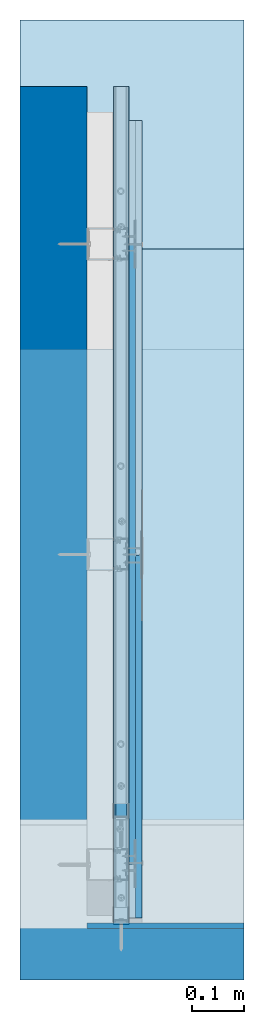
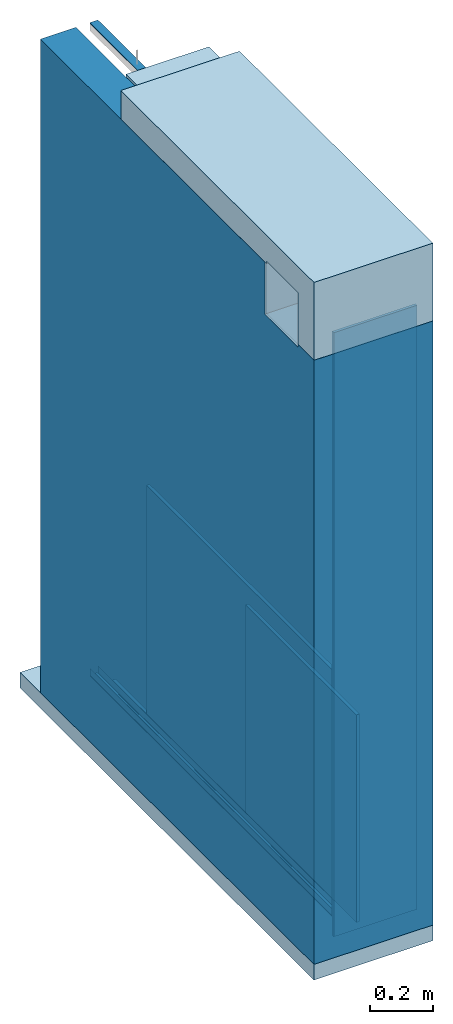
# One storey, part 1 of 62: 8 walls, 3 slabs.
"""IFC2X3 building model written with IfcOpenShell, lengths in millimetres."""

from ifc_helpers import new_model, si_unit, frame, origin_with_axes, place, context, subcontext, project, spatial, faceted_brep, material, type_object, element, save


model = new_model("IFC2X3")

# Units and contexts
model_context = context("Model", 3, world=origin_with_axes())
body_context = subcontext(model_context, "Body", "Model", "MODEL_VIEW")
ifc_project = project(units=[si_unit("LENGTHUNIT", "METRE", prefix="MILLI"), si_unit("AREAUNIT", "SQUARE_METRE"), si_unit("VOLUMEUNIT", "CUBIC_METRE")], contexts=[model_context])

# Site, building, storey
site_placement = place(None, frame((2152.14102611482, -2015.0250894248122, 57.61556563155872), z_axis=(0.0, 0.0, 1.0), x_axis=(-1.1102230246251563e-16, 1.0, 0.0)))
site = spatial("IfcSite", under=ifc_project, at=site_placement, Name="Default Site", CompositionType="ELEMENT")
building_placement = place(site_placement, origin_with_axes())
building = spatial("IfcBuilding", under=site, at=building_placement, Name="Default Building", CompositionType="ELEMENT")
storey_placement = place(building_placement, origin_with_axes())
storey = spatial("IfcBuildingStorey", under=building, at=storey_placement, Name="Default Building Storey", CompositionType="ELEMENT", Elevation=57.61556563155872)

# Slabs
ifc_material_1 = material(Name="Concrete_02_1K")
slab_type_1 = type_object("IfcSlabType", Name="Beton", PredefinedType="FLOOR")
slab_1_placement = place(storey_placement, frame((3761.1571697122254, 2049.141026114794, -50.615566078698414), z_axis=(0.0, 0.0, 1.0), x_axis=(1.0, 0.0, 0.0)))
element("IfcSlab", 1, at=slab_1_placement, inside=storey, type_object=slab_type_1, material=ifc_material_1, Name="Beton", context=body_context, shape_type="Brep", body=[
    faceted_brep([(110.0000167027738, 103.00000000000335, -6.999999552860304), (110.0000167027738, 103.00000000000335, 52.99959201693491), (110.0000167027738, -330.0000000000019, 52.99959201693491), (110.0000167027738, -330.0000000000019, -6.999999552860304), (-1746.1320802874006, 103.00000000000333, 52.99959201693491), (-1746.1320802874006, 103.00000000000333, -6.999999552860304), (-1746.1320802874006, -330.00000000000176, -6.999999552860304), (-1746.1320802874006, -330.00000000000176, 52.99959201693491)], [[[0, 1, 2, 3]], [[4, 5, 6, 7]], [[1, 0, 5, 4]], [[2, 1, 4, 7]], [[3, 2, 7, 6]], [[0, 3, 6, 5]]]),
])
ifc_material_2 = material(Name="M04_Stone_Frost")
slab_type_2 = type_object("IfcSlabType", Name="Strop#1", PredefinedType="FLOOR")
slab_2_placement = place(storey_placement, frame((3683.040564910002, 2049.141026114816, 2517.3944339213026), z_axis=(0.0, 0.0, 1.0), x_axis=(1.0, 0.0, 0.0)))
element("IfcSlab", 2, at=slab_2_placement, inside=storey, type_object=slab_type_2, material=ifc_material_2, Name="Strop", context=body_context, shape_type="Brep", body=[
    faceted_brep([(-254.99998329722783, -27.000143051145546, 3.0000004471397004), (-254.99998329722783, -27.000143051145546, 12.99999999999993), (-254.99998329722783, -330.0000000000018, 12.99999999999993), (-254.99998329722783, -330.0000000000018, 3.0000004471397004), (-1367.9999832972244, -27.000143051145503, 12.99999999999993), (-1367.9999832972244, -27.000143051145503, 3.0000004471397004), (-1367.9999832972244, -330.00000000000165, 3.0000004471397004), (-1367.9999832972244, -330.00000000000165, 12.99999999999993)], [[[0, 1, 2, 3]], [[4, 5, 6, 7]], [[1, 0, 5, 4]], [[2, 1, 4, 7]], [[3, 2, 7, 6]], [[0, 3, 6, 5]]]),
])
slab_type_3 = type_object("IfcSlabType", Name="Strop", PredefinedType="FLOOR")
slab_3_placement = place(storey_placement, frame((3683.040564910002, 2049.1410261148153, 2527.3944334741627), z_axis=(0.0, 0.0, 1.0), x_axis=(1.0, 0.0, 0.0)))
element("IfcSlab", 3, at=slab_3_placement, inside=storey, type_object=slab_type_3, material=ifc_material_1, Name="Strop", context=body_context, shape_type="Brep", body=[
    faceted_brep([(-447.9999832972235, 103.00000000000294, -6.99999910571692), (-447.9999832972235, 103.00000000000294, 103.00000000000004), (-447.9999832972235, -330.0000000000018, 103.00000000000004), (-447.9999832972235, -330.0000000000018, 3.0000004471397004), (-447.9999832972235, -27.000143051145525, 3.0000004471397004), (-447.9999832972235, -27.000143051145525, -6.99999910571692), (-1367.9999832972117, 103.00000000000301, -6.99999910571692), (-1367.9999832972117, 103.00000000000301, 3.0000004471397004), (-1568.0154759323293, 103.0000000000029, 3.0000004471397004), (-1568.0154759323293, 103.0000000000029, -196.99999910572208), (-1668.0154754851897, 103.00000000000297, -196.99999910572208), (-1668.0154754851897, 103.00000000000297, 103.00000000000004), (-1668.0154754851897, -330.0000000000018, 103.00000000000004), (-1668.0154754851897, -330.0000000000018, -196.99999910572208), (-1568.0154759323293, -330.0000000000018, -196.99999910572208), (-1568.0154759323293, -330.0000000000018, 3.0000004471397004), (-1367.9999832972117, -27.000143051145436, 3.0000004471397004), (-1367.9999832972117, -27.000143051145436, -6.99999910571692)], [[[0, 1, 2, 3, 4, 5]], [[1, 0, 6, 7, 8, 9, 10, 11]], [[1, 11, 12, 2]], [[2, 12, 13, 14, 15, 3]], [[11, 10, 13, 12]], [[9, 14, 13, 10]], [[8, 15, 14, 9]], [[8, 7, 16, 4, 3, 15]], [[0, 5, 17, 6]], [[4, 16, 17, 5]], [[16, 7, 6, 17]]]),
])

# Walls
ifc_material_3 = material(Name="Undefined7")
wall_type_1 = type_object("IfcWallType", Name="Płyta gipsowo-kartonowa RIGIPS PRO (4PRO™)#4", PredefinedType="NOTDEFINED")
wall_1_placement = place(storey_placement, frame((2835.5063704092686, 1928.6800775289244, 1062.3900398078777), z_axis=(0.0, 0.0, 1.0), x_axis=(-1.0, 6.389333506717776e-13, 0.0)))
element("IfcWall", 4, at=wall_1_placement, inside=storey, type_object=wall_type_1, material=ifc_material_3, Name="Płyta gipsowo-kartonowa RIGIPS PRO (4PRO™)", context=body_context, shape_type="Brep", body=[
    faceted_brep([(700.4768892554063, 12.500000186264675, -250.0), (700.4768892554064, -3.9046383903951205e-10, -250.0), (700.4768892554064, -3.872152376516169e-10, -1050.001621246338), (700.4768892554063, 12.500000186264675, -1050.001621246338), (45.00000178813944, 12.500000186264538, -250.0), (41.000001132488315, 11.500000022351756, -250.0), (1.0000000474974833, 11.500000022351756, -250.0), (0.7411809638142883, 11.465925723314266, -250.0), (0.5000000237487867, 11.366025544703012, -250.0), (0.2928932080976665, 11.20710652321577, -250.0), (0.13397459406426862, 10.999999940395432, -250.0), (0.03407417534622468, 10.758819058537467, -250.0), (-2.887645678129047e-12, 10.499999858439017, -250.0), (0.0, 0.0, -250.0), (45.00000178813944, 12.500000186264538, -1050.001621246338), (41.000001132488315, 11.500000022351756, -1050.001621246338), (1.0000000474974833, 11.500000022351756, -1050.001621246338), (0.7411809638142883, 11.465925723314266, -1050.001621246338), (0.5000000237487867, 11.366025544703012, -1050.001621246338), (0.2928932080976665, 11.20710652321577, -1050.001621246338), (0.13397459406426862, 10.999999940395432, -1050.001621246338), (0.03407417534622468, 10.758819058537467, -1050.001621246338), (-2.887645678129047e-12, 10.499999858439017, -1050.001621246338), (0.0, 0.0, -1050.001621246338)], [[[0, 1, 2, 3]], [[0, 4, 5, 6, 7, 8, 9, 10, 11, 12, 13, 1]], [[3, 14, 4, 0]], [[5, 4, 14, 15]], [[6, 5, 15, 16]], [[7, 6, 16, 17]], [[8, 7, 17, 18]], [[9, 8, 18, 19]], [[10, 9, 19, 20]], [[11, 10, 20, 21]], [[12, 11, 21, 22]], [[13, 12, 22, 23]], [[2, 1, 13, 23]], [[14, 3, 2, 23, 22, 21, 20, 19, 18, 17, 16, 15]]]),
])
ifc_material_4 = material(Name="Undefined9")
wall_type_2 = type_object("IfcWallType", Name="Profil RIGIPS UD 30 GypSerra®/Ultrastil®", PredefinedType="NOTDEFINED")
wall_2_placement = place(storey_placement, frame((5048.786508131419, 3440.7922799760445, -108.59097421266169), z_axis=(-6.092619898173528e-14, -6.85815824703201e-13, 1.0), x_axis=(-1.0, -2.013442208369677e-15, -6.092619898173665e-14)))
element("IfcWall", 5, at=wall_2_placement, inside=storey, type_object=wall_type_2, material=ifc_material_4, Name="Profil RIGIPS UD 30 GypSerra®/Ultrastil®", context=body_context, shape_type="Brep", body=[
    faceted_brep([(2893.189556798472, 1469.9159860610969, 140.97499847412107), (2893.189556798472, 1469.366073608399, 140.97499847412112), (2893.18955679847, 1469.3660736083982, 114.77500200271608), (2893.1895567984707, 1469.3758487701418, 114.6498546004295), (2893.1895567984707, 1469.405174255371, 114.52778428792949), (2893.1895567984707, 1469.4532155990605, 114.4118085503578), (2893.1895567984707, 1469.518780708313, 114.30477350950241), (2893.1895567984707, 1469.6003198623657, 114.20931667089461), (2893.1895567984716, 1469.6958065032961, 114.1277849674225), (2893.1895567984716, 1469.8028564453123, 114.06219750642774), (2893.1895567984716, 1469.9188470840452, 114.01415616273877), (2893.1895567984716, 1470.0409173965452, 113.9848530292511), (2893.1895567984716, 1470.1660871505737, 113.97500336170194), (2893.1895567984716, 1472.0159769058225, 113.97500336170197), (2893.1895567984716, 1472.1635580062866, 113.98871988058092), (2893.1895567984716, 1472.3060131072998, 114.02940750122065), (2893.1895567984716, 1472.4385738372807, 114.09565806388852), (2893.1895567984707, 1472.5565910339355, 114.18521404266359), (2893.1895567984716, 1472.656011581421, 114.29499834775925), (2893.1895567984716, 1473.6760854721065, 115.65499752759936), (2893.1895567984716, 1473.7755060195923, 115.76478183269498), (2893.1895567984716, 1473.8935232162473, 115.85433781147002), (2893.189556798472, 1474.0260839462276, 115.92059582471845), (2893.189556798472, 1474.1685390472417, 115.96128344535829), (2893.189556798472, 1474.316000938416, 115.97499996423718), (2893.189556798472, 1493.6159849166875, 115.97499996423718), (2893.189556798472, 1493.7635660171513, 115.96128344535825), (2893.189556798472, 1493.9060211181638, 115.92059582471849), (2893.189556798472, 1494.0385818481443, 115.85433781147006), (2893.189556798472, 1494.1565990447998, 115.76478183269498), (2893.189556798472, 1494.2560195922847, 115.65499752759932), (2893.1895567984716, 1495.2759742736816, 114.29499834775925), (2893.1895567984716, 1495.3755140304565, 114.18521404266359), (2893.1895567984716, 1495.4935312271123, 114.09565806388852), (2893.1895567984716, 1495.6260919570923, 114.02940750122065), (2893.1895567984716, 1495.7685470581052, 113.98871988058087), (2893.1895567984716, 1495.9160089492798, 113.97500336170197), (2893.1895567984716, 1497.7660179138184, 113.97500336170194), (2893.1895567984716, 1497.8911876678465, 113.98485302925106), (2893.1895567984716, 1498.0132579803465, 114.01415616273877), (2893.1895567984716, 1498.1292486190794, 114.06219750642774), (2893.1895567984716, 1498.2362985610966, 114.12778496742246), (2893.1895567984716, 1498.3316659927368, 114.2093166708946), (2893.1895567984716, 1498.4132051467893, 114.30477350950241), (2893.1895567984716, 1498.4788894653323, 114.4118085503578), (2893.1895567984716, 1498.5269308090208, 114.5277842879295), (2893.1895567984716, 1498.5561370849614, 114.6498546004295), (2893.189556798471, 1498.5660314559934, 114.77500200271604), (2893.189556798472, 1498.5660314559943, 140.97499847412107), (2893.189556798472, 1498.0159997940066, 140.97499847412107), (2893.189556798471, 1498.0159997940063, 114.77500200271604), (2893.1895567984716, 1498.012900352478, 114.73589390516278), (2893.1895567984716, 1498.0038404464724, 114.69774693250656), (2893.1895567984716, 1497.9888200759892, 114.66149985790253), (2893.1895567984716, 1497.9683160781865, 114.62805420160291), (2893.1895567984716, 1497.942805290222, 114.59822207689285), (2893.1895567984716, 1497.9130029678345, 114.57274854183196), (2893.1895567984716, 1497.8795051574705, 114.55225199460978), (2893.1895567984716, 1497.843265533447, 114.53723907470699), (2893.1895567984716, 1497.8051185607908, 114.5280748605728), (2893.1895567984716, 1497.7660179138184, 114.52499777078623), (2893.1895567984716, 1495.9160089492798, 114.52499777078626), (2893.1895567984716, 1495.8698749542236, 114.52928930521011), (2893.1895567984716, 1495.825409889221, 114.54199999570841), (2893.1895567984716, 1495.784044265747, 114.56270515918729), (2893.1895567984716, 1495.747089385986, 114.59068953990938), (2893.1895567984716, 1495.715975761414, 114.6249994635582), (2893.189556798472, 1494.6960210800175, 115.98499864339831), (2893.189556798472, 1494.5281744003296, 116.17025732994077), (2893.1895567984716, 1494.3289756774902, 116.32138490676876), (2893.1895567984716, 1494.1053390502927, 116.43319576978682), (2893.1895567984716, 1493.8650131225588, 116.50185286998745), (2893.1895567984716, 1493.6159849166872, 116.52500182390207), (2893.189556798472, 1474.3160009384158, 116.52500182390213), (2893.189556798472, 1474.067091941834, 116.50185286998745), (2893.189556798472, 1473.8266468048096, 116.43319576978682), (2893.189556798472, 1473.6031293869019, 116.32138490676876), (2893.189556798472, 1473.4039306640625, 116.17025732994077), (2893.189556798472, 1473.2360839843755, 115.98499864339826), (2893.1895567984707, 1472.2160100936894, 114.6249994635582), (2893.1895567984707, 1472.1848964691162, 114.59068953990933), (2893.1895567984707, 1472.148060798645, 114.56270515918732), (2893.1895567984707, 1472.1066951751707, 114.54199999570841), (2893.1895567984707, 1472.0621109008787, 114.52928930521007), (2893.1895567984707, 1472.0159769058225, 114.52499777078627), (2893.1895567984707, 1470.1660871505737, 114.52499777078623), (2893.1895567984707, 1470.1268672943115, 114.5280748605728), (2893.1895567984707, 1470.088720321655, 114.53723907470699), (2893.1895567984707, 1470.0524806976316, 114.55225199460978), (2893.1895567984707, 1470.0191020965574, 114.57274854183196), (2893.1895567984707, 1469.9892997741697, 114.59822207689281), (2893.1895567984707, 1469.9637889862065, 114.6280542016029), (2893.1895567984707, 1469.943284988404, 114.66149985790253), (2893.1895567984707, 1469.9282646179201, 114.69774693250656), (2893.1895567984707, 1469.9190855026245, 114.73589390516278), (2893.18955679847, 1469.915986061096, 114.77500200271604), (1306.0656785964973, 1469.3660736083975, 114.77500200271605), (1306.0656785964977, 1469.3660736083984, 140.9749984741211), (1306.0656785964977, 1469.9159860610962, 140.97499847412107), (1306.0656785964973, 1469.9159860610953, 114.77500200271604), (1306.0656785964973, 1469.9190855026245, 114.73589390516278), (1306.0656785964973, 1469.9282646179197, 114.69774693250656), (1306.0656785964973, 1469.9432849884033, 114.66149985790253), (1306.0656785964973, 1469.963788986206, 114.62805420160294), (1306.0656785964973, 1469.989299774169, 114.59822207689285), (1306.0656785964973, 1470.0191020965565, 114.57274854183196), (1306.0656785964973, 1470.0524806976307, 114.55225199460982), (1306.0656785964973, 1470.0887203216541, 114.53723907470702), (1306.0656785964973, 1470.1268672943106, 114.52807486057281), (1306.0656785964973, 1470.1660871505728, 114.5249977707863), (1306.0656785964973, 1472.0159769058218, 114.52499777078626), (1306.0656785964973, 1472.062110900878, 114.52928930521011), (1306.0656785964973, 1472.10669517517, 114.54199999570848), (1306.0656785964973, 1472.148060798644, 114.56270515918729), (1306.0656785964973, 1472.1848964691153, 114.59068953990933), (1306.0656785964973, 1472.216010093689, 114.6249994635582), (1306.0656785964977, 1473.236083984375, 115.98499864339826), (1306.0656785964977, 1473.4039306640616, 116.17025732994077), (1306.0656785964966, 1473.6031293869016, 116.3213849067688), (1306.0656785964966, 1473.8266468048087, 116.43319576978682), (1306.0656785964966, 1474.0670919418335, 116.50185286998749), (1306.0656785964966, 1474.3160009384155, 116.52500182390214), (1306.0656785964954, 1493.615984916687, 116.52500182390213), (1306.0656785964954, 1493.8650131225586, 116.50185286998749), (1306.0656785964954, 1494.105339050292, 116.43319576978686), (1306.0656785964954, 1494.32897567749, 116.3213849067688), (1306.0656785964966, 1494.5281744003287, 116.17025732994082), (1306.0656785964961, 1494.696021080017, 115.98499864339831), (1306.0656785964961, 1495.7159757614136, 114.62499946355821), (1306.0656785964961, 1495.7470893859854, 114.59068953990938), (1306.0656785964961, 1495.7840442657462, 114.56270515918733), (1306.0656785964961, 1495.8254098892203, 114.54199999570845), (1306.0656785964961, 1495.8698749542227, 114.52928930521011), (1306.0656785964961, 1495.9160089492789, 114.5249977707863), (1306.0656785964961, 1497.7660179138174, 114.52499777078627), (1306.0656785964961, 1497.80511856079, 114.5280748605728), (1306.0656785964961, 1497.8432655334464, 114.53723907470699), (1306.0656785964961, 1497.8795051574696, 114.55225199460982), (1306.0656785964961, 1497.9130029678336, 114.57274854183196), (1306.0656785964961, 1497.9428052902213, 114.59822207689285), (1306.0656785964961, 1497.968316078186, 114.62805420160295), (1306.0656785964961, 1497.9888200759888, 114.66149985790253), (1306.0656785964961, 1498.0038404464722, 114.69774693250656), (1306.0656785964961, 1498.0129003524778, 114.73589390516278), (1306.0656785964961, 1498.0159997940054, 114.77500200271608), (1306.0656785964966, 1498.0159997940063, 140.97499847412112), (1306.0656785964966, 1498.5660314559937, 140.97499847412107), (1306.0656785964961, 1498.5660314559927, 114.77500200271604), (1306.0656785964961, 1498.556137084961, 114.64985460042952), (1306.0656785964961, 1498.5269308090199, 114.52778428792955), (1306.0656785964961, 1498.478889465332, 114.41180855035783), (1306.0656785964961, 1498.4132051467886, 114.30477350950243), (1306.0656785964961, 1498.3316659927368, 114.20931667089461), (1306.0656785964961, 1498.236298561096, 114.12778496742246), (1306.0656785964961, 1498.1292486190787, 114.06219750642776), (1306.0656785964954, 1498.0132579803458, 114.01415616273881), (1306.0656785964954, 1497.8911876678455, 113.9848530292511), (1306.0656785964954, 1497.7660179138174, 113.97500336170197), (1306.0656785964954, 1495.9160089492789, 113.97500336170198), (1306.0656785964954, 1495.7685470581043, 113.98871988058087), (1306.0656785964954, 1495.6260919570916, 114.02940750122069), (1306.0656785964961, 1495.4935312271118, 114.09565806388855), (1306.0656785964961, 1495.3755140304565, 114.18521404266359), (1306.0656785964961, 1495.275974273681, 114.29499834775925), (1306.0656785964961, 1494.2560195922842, 115.65499752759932), (1306.0656785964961, 1494.1565990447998, 115.76478183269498), (1306.0656785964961, 1494.0385818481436, 115.85433781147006), (1306.0656785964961, 1493.9060211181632, 115.92059582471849), (1306.0656785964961, 1493.7635660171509, 115.96128344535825), (1306.0656785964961, 1493.615984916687, 115.9749999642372), (1306.0656785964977, 1474.3160009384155, 115.9749999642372), (1306.0656785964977, 1474.1685390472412, 115.96128344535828), (1306.0656785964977, 1474.0260839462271, 115.92059582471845), (1306.0656785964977, 1473.8935232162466, 115.85433781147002), (1306.0656785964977, 1473.7755060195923, 115.764781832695), (1306.0656785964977, 1473.676085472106, 115.65499752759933), (1306.0656785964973, 1472.65601158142, 114.29499834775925), (1306.0656785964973, 1472.5565910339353, 114.18521404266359), (1306.0656785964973, 1472.43857383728, 114.09565806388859), (1306.0656785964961, 1472.306013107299, 114.02940750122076), (1306.0656785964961, 1472.1635580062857, 113.98871988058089), (1306.0656785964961, 1472.0159769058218, 113.97500336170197), (1306.0656785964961, 1470.1660871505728, 113.97500336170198), (1306.0656785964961, 1470.0409173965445, 113.98485302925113), (1306.0656785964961, 1469.9188470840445, 114.01415616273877), (1306.0656785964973, 1469.8028564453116, 114.06219750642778), (1306.0656785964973, 1469.695806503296, 114.12778496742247), (1306.0656785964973, 1469.6003198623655, 114.20931667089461), (1306.0656785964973, 1469.5187807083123, 114.30477350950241), (1306.0656785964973, 1469.45321559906, 114.4118085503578), (1306.0656785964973, 1469.4051742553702, 114.52778428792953), (1306.0656785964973, 1469.3758487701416, 114.64985460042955)], [[[0, 1, 2, 3, 4, 5, 6, 7, 8, 9, 10, 11, 12, 13, 14, 15, 16, 17, 18, 19, 20, 21, 22, 23, 24, 25, 26, 27, 28, 29, 30, 31, 32, 33, 34, 35, 36, 37, 38, 39, 40, 41, 42, 43, 44, 45, 46, 47, 48, 49, 50, 51, 52, 53, 54, 55, 56, 57, 58, 59, 60, 61, 62, 63, 64, 65, 66, 67, 68, 69, 70, 71, 72, 73, 74, 75, 76, 77, 78, 79, 80, 81, 82, 83, 84, 85, 86, 87, 88, 89, 90, 91, 92, 93, 94, 95]], [[96, 97, 98, 99, 100, 101, 102, 103, 104, 105, 106, 107, 108, 109, 110, 111, 112, 113, 114, 115, 116, 117, 118, 119, 120, 121, 122, 123, 124, 125, 126, 127, 128, 129, 130, 131, 132, 133, 134, 135, 136, 137, 138, 139, 140, 141, 142, 143, 144, 145, 146, 147, 148, 149, 150, 151, 152, 153, 154, 155, 156, 157, 158, 159, 160, 161, 162, 163, 164, 165, 166, 167, 168, 169, 170, 171, 172, 173, 174, 175, 176, 177, 178, 179, 180, 181, 182, 183, 184, 185, 186, 187, 188, 189, 190, 191]], [[23, 171, 170, 24]], [[22, 172, 171, 23]], [[175, 174, 20, 19]], [[172, 22, 21, 173]], [[20, 174, 173, 21]], [[24, 170, 169, 25]], [[29, 165, 164, 30]], [[165, 29, 28, 166]], [[27, 167, 166, 28]], [[169, 168, 26, 25]], [[26, 168, 167, 27]], [[30, 164, 163, 31]], [[35, 159, 158, 36]], [[34, 160, 159, 35]], [[33, 32, 162, 161]], [[161, 160, 34, 33]], [[163, 162, 32, 31]], [[36, 158, 157, 37]], [[46, 45, 149, 148]], [[148, 147, 47, 46]], [[44, 150, 149, 45]], [[43, 42, 152, 151]], [[151, 150, 44, 43]], [[41, 40, 154, 153]], [[153, 152, 42, 41]], [[39, 155, 154, 40]], [[38, 37, 157, 156]], [[156, 155, 39, 38]], [[47, 147, 146, 48]], [[48, 146, 145, 49]], [[49, 145, 144, 50]], [[134, 60, 59, 135]], [[58, 136, 135, 59]], [[57, 137, 136, 58]], [[137, 57, 56, 138]], [[55, 139, 138, 56]], [[139, 55, 54, 140]], [[53, 141, 140, 54]], [[52, 142, 141, 53]], [[142, 52, 51, 143]], [[50, 144, 143, 51]], [[60, 134, 133, 61]], [[65, 129, 128, 66]], [[129, 65, 64, 130]], [[63, 131, 130, 64]], [[133, 132, 62, 61]], [[62, 132, 131, 63]], [[66, 128, 127, 67]], [[71, 123, 122, 72]], [[70, 69, 125, 124]], [[124, 123, 71, 70]], [[68, 126, 125, 69]], [[127, 126, 68, 67]], [[72, 122, 121, 73]], [[77, 117, 116, 78]], [[76, 118, 117, 77]], [[75, 74, 120, 119]], [[119, 118, 76, 75]], [[121, 120, 74, 73]], [[78, 116, 115, 79]], [[83, 111, 110, 84]], [[82, 112, 111, 83]], [[115, 114, 80, 79]], [[112, 82, 81, 113]], [[80, 114, 113, 81]], [[84, 110, 109, 85]], [[99, 95, 94, 100]], [[93, 101, 100, 94]], [[92, 102, 101, 93]], [[102, 92, 91, 103]], [[90, 104, 103, 91]], [[104, 90, 89, 105]], [[88, 106, 105, 89]], [[87, 107, 106, 88]], [[107, 87, 86, 108]], [[85, 109, 108, 86]], [[95, 99, 98, 0]], [[0, 98, 97, 1]], [[1, 97, 96, 2]], [[11, 10, 184, 183]], [[183, 182, 12, 11]], [[9, 185, 184, 10]], [[6, 5, 189, 188]], [[7, 6, 188, 187]], [[8, 7, 187, 186]], [[186, 185, 9, 8]], [[4, 190, 189, 5]], [[3, 2, 96, 191]], [[191, 190, 4, 3]], [[12, 182, 181, 13]], [[17, 177, 176, 18]], [[16, 15, 179, 178]], [[178, 177, 17, 16]], [[14, 180, 179, 15]], [[181, 180, 14, 13]], [[18, 176, 175, 19]]]),
])
ifc_material_5 = material(Name="Undefined13")
wall_type_3 = type_object("IfcWallType", Name="Taśma uszczelniająca piankowa RIGIPS#3", PredefinedType="NOTDEFINED")
for number, where, z_axis, x_axis, name in (
    (6, (5610.1650774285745, 3440.792279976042, -108.59097421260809), (-6.09261989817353e-14, -6.85815824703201e-13, 1.0), (-1.0, -2.0134422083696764e-15, -6.092619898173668e-14), "Taśma uszczelniająca piankowa RIGIPS"),
    (7, (5610.165077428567, 472.860294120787, 2631.3590203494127), (6.092619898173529e-14, 6.866451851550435e-13, -1.0), (-1.0, -2.0134422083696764e-15, -6.092619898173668e-14), "Taśma uszczelniająca piankowa RIGIPS"),
):
    element("IfcWall", number, at=place(storey_placement, frame(where, z_axis=z_axis, x_axis=x_axis)), inside=storey, type_object=wall_type_3, material=ifc_material_5, Name=name, context=body_context, shape_type="Brep", body=[
        faceted_brep([(1867.1244382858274, 1498.965978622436, 113.97500336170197), (1867.1244382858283, 1498.9659786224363, 110.9749972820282), (1867.1244382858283, 1468.966007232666, 110.9749972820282), (1867.1244382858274, 1468.9660072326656, 113.97500336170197), (3487.5264937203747, 1498.9659786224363, 110.9749972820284), (3487.5264937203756, 1498.965978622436, 113.97500336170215), (3487.5264937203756, 1468.9660072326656, 113.97500336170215), (3487.5264937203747, 1468.9660072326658, 110.9749972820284)], [[[0, 1, 2, 3]], [[4, 5, 6, 7]], [[5, 0, 3, 6]], [[6, 3, 2, 7]], [[7, 2, 1, 4]], [[4, 1, 0, 5]]]),
    ])
wall_type_4 = type_object("IfcWallType", Name="Płyta gipsowo-kartonowa RIGIPS PRO (4PRO™)#2", PredefinedType="NOTDEFINED")
wall_3_placement = place(storey_placement, frame((2222.4296487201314, 1941.18007752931, 1162.3900398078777), z_axis=(0.0, 0.0, 1.0), x_axis=(1.0, 0.0, 0.0)))
element("IfcWall", 8, at=wall_3_placement, inside=storey, type_object=wall_type_4, material=ifc_material_3, Name="Płyta gipsowo-kartonowa RIGIPS PRO (4PRO™)", context=body_context, shape_type="Brep", body=[
    faceted_brep([(1215.7750066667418, -10.758819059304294, -1150.001525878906), (1215.7750066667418, -10.758819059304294, -250.0), (1215.6751092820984, -10.99999994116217, -250.0), (1215.6751092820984, -10.99999994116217, -1150.001525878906), (1215.309017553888, -11.36602554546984, -1150.001525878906), (1215.516203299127, -11.207106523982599, -1150.001525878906), (1215.516203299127, -11.207106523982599, -250.0), (1215.309017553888, -11.36602554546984, -250.0), (1170.809024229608, -12.500000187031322, -1150.001525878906), (1174.8090919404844, -11.500000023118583, -1150.001525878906), (1174.8090919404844, -11.500000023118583, -250.0), (1170.809024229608, -12.500000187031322, -250.0), (1214.8090537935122, -11.500000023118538, -1150.001525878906), (1215.067857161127, -11.465925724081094, -1150.001525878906), (1215.067857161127, -11.465925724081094, -250.0), (1214.8090537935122, -11.500000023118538, -250.0), (1215.8091005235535, -10.499999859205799, -1150.001525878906), (1215.8091005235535, -10.499999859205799, -250.0), (1215.8091005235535, -7.668052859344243e-10, -1150.001525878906), (1215.8091005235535, -7.668052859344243e-10, -250.0), (60.96893029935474, -12.50000018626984, -1150.0015258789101), (60.96893029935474, -12.50000018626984, -250.00000000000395), (56.96892964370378, -11.500000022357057, -1150.0015258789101), (16.968928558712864, -11.500000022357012, -1150.0015258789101), (16.710109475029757, -11.465925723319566, -1150.0015258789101), (16.468928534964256, -11.366025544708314, -1150.0015258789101), (16.261821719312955, -11.207106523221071, -1150.0015258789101), (16.102903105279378, -10.999999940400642, -1150.0015258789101), (16.003002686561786, -10.758819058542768, -1150.0015258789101), (15.968928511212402, -10.499999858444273, -1150.0015258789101), (15.968928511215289, -5.278977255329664e-12, -1150.0015258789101), (16.968928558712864, -11.500000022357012, -250.00000000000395), (56.96892964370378, -11.500000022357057, -250.00000000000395), (15.968928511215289, -5.278977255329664e-12, -250.00000000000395), (15.968928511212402, -10.499999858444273, -250.00000000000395), (16.003002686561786, -10.758819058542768, -250.00000000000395), (16.102903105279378, -10.999999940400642, -250.00000000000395), (16.261821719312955, -11.207106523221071, -250.00000000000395), (16.468928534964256, -11.366025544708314, -250.00000000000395), (16.710109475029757, -11.465925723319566, -250.00000000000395)], [[[0, 1, 2, 3]], [[4, 5, 6, 7]], [[8, 9, 10, 11]], [[12, 13, 14, 15]], [[3, 2, 6, 5]], [[13, 4, 7, 14]], [[9, 12, 15, 10]], [[16, 17, 1, 0]], [[18, 19, 17, 16]], [[20, 8, 11, 21]], [[4, 13, 12, 9, 22, 23, 24, 25, 26, 27, 28, 29, 30, 18, 16, 0, 3, 5]], [[31, 32, 21, 11, 10, 15, 14, 7, 6, 2, 1, 17, 19, 33, 34, 35, 36, 37, 38, 39]], [[22, 9, 8, 20]], [[33, 19, 18, 30]], [[26, 25, 38, 37]], [[26, 37, 36, 27]], [[23, 22, 32, 31]], [[29, 34, 33, 30]], [[25, 24, 39, 38]], [[28, 35, 34, 29]], [[27, 36, 35, 28]], [[24, 23, 31, 39]], [[22, 20, 21, 32]]]),
])
wall_type_5 = type_object("IfcWallType", Name="Ściana#1", PredefinedType="NOTDEFINED")
wall_4_placement = place(storey_placement, frame((2128.0250889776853, 2049.141026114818, 2536.3944176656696), z_axis=(-1.0, 7.216449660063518e-16, 8.326672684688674e-17), x_axis=(8.326672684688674e-17, -4.622231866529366e-32, 1.0)))
element("IfcWall", 9, at=wall_4_placement, inside=storey, type_object=wall_type_5, material=ifc_material_2, Name="Ściana", context=body_context, shape_type="Brep", body=[
    faceted_brep([(-205.99998329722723, -27.00014305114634, 3.0000004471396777), (-205.99998329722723, -27.00014305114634, 12.99999999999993), (-205.99998329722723, -330.0000000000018, 12.999999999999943), (-205.99998329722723, -330.0000000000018, 3.0000004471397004), (-2534.0103917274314, -27.00014305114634, 12.99999999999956), (-2534.0103917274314, -27.00014305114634, 3.0000004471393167), (-2534.0103917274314, -330.0000000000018, 3.0000004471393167), (-2534.0103917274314, -330.0000000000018, 12.99999999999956)], [[[0, 1, 2, 3]], [[4, 5, 6, 7]], [[1, 0, 5, 4]], [[2, 1, 4, 7]], [[3, 2, 7, 6]], [[0, 3, 6, 5]]]),
])
ifc_material_6 = material(Name="M03_Pewter_Shine")
wall_type_6 = type_object("IfcWallType", Name="Ściana#2", PredefinedType="NOTDEFINED")
wall_5_placement = place(storey_placement, frame((2118.0250894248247, 2049.141026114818, 2536.39441766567), z_axis=(-1.0, 7.216449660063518e-16, 8.326672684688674e-17), x_axis=(8.326672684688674e-17, -4.622231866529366e-32, 1.0)))
element("IfcWall", 10, at=wall_5_placement, inside=storey, type_object=wall_type_6, material=ifc_material_6, Name="Ściana", context=body_context, shape_type="Brep", body=[
    faceted_brep([(-2534.0103917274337, 103.00000000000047, 102.99999999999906), (-2534.0103917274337, 103.00000000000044, 3.0000004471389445), (-2534.010391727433, -27.000143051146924, 3.000000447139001), (-2534.0103917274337, -330.0000000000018, 3.0000004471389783), (-2534.0103917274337, -330.00000000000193, 102.99999999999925), (-205.9999832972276, -330.00000000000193, 103.00000000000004), (-205.9999832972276, 103.00000000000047, 102.99999999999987), (-205.9999832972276, -330.0000000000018, 3.0000004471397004), (-2534.010391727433, -27.00014305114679, -1625.015526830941), (-2534.010391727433, 103.00000000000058, -1625.0155268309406), (-15.999983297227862, 103.00000000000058, -1625.0155268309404), (-15.999983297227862, -27.00014305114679, -1625.0155268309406), (-215.9999832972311, -27.000143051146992, 3.000000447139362), (-15.999983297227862, -27.000143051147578, -207.01549174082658), (-215.99998329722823, -27.0001430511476, -207.01549174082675), (-15.999983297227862, 102.99999999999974, -207.01549174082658), (-205.9999832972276, 103.00000000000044, 3.0000004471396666), (-215.99998329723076, 103.00000000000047, 3.0000004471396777), (-215.99998329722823, 102.99999999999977, -207.01549174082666), (-205.99998329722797, -27.000143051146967, 3.000000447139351)], [[[0, 1, 2, 3, 4]], [[5, 6, 0, 4]], [[7, 5, 4, 3]], [[8, 9, 10, 11]], [[2, 1, 9, 8]], [[12, 2, 8, 11, 13, 14]], [[10, 15, 13, 11]], [[6, 16, 17, 18, 15, 10, 9, 1, 0]], [[13, 15, 18, 14]], [[16, 6, 5, 7, 19]], [[12, 14, 18, 17]], [[16, 19, 12, 17]]]),
    faceted_brep([(-2534.0103917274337, -330.0000000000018, 3.0000004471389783), (-2534.010391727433, -27.000143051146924, 3.000000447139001), (-215.9999832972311, -27.000143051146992, 3.000000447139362), (-205.99998329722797, -27.000143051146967, 3.000000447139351), (-205.9999832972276, -330.0000000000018, 3.0000004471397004)], [[[0, 1, 2, 3, 4]]]),
])
ifc_material_7 = material(Name="Undefined5")
wall_type_7 = type_object("IfcWallType", Name="Masa szpachlowa konstrukcyjna RIGIPS#3", PredefinedType="NOTDEFINED")
wall_6_placement = place(storey_placement, frame((2372.718586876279, 1940.8262477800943, 2.3840259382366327), z_axis=(0.0, 0.0, 1.0), x_axis=(-1.0, -1.665334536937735e-16, 0.0)))
element("IfcWall", 11, at=wall_6_placement, inside=storey, type_object=wall_type_7, material=ifc_material_7, Name="Masa szpachlowa konstrukcyjna RIGIPS", context=body_context, shape_type="Brep", body=[
    faceted_brep([(237.68910572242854, 24.646170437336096, -5.639932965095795e-14), (237.68910572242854, -0.3499999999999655, -5.639932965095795e-14), (-1304.32203043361, -0.3499999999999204, -5.639932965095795e-14), (-1304.32203043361, 24.64617043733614, -5.639932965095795e-14), (237.68910572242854, -0.3499999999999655, 10.00439262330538), (-1304.32203043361, -0.3499999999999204, 10.00439262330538), (237.68910572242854, 24.646170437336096, 10.00439262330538), (-1304.32203043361, 24.64617043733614, 10.00439262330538)], [[[0, 1, 2, 3]], [[1, 4, 5, 2]], [[4, 6, 7, 5]], [[6, 0, 3, 7]], [[7, 3, 2, 5]], [[0, 6, 4, 1]]]),
])

save(model, "model.ifc")
